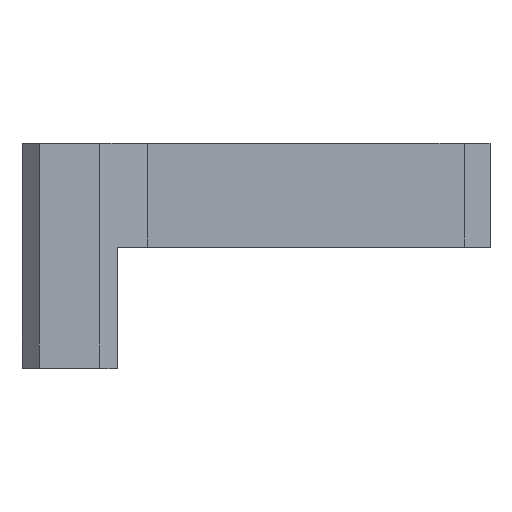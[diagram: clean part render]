
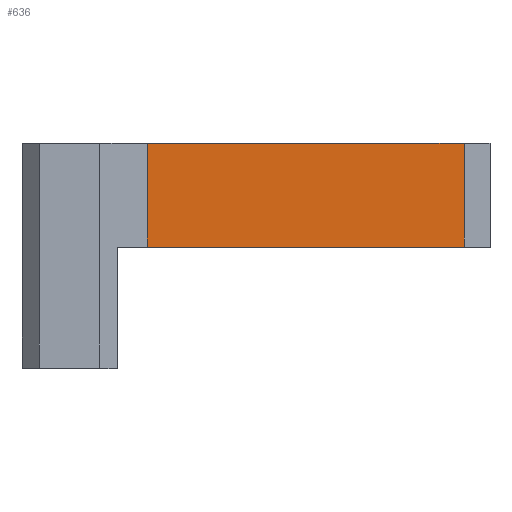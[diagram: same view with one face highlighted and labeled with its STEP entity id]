
A CAD part, top view. The second image highlights one B-rep face of the part: STEP entity #636.
In plain terms, the highlighted planar face has unit normal (0, 0, 1).
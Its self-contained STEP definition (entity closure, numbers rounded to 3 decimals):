
#111 = VECTOR ( 'NONE', #1032, 1000. ) ;
#241 = LINE ( 'NONE', #2005, #1550 ) ;
#290 = ORIENTED_EDGE ( 'NONE', *, *, #1762, .F. ) ;
#303 = VERTEX_POINT ( 'NONE', #1878 ) ;
#327 = CARTESIAN_POINT ( 'NONE',  ( 10.08, 0., 9.25 ) ) ;
#444 = AXIS2_PLACEMENT_3D ( 'NONE', #1285, #687, #1675 ) ;
#569 = DIRECTION ( 'NONE',  ( 1., 0., 0. ) ) ;
#579 = CARTESIAN_POINT ( 'NONE',  ( -8.22, 0., 9.25 ) ) ;
#636 = ADVANCED_FACE ( 'NONE', ( #1235 ), #1611, .F. ) ;
#647 = VECTOR ( 'NONE', #1499, 1000. ) ;
#687 = DIRECTION ( 'NONE',  ( 0., 0., -1. ) ) ;
#778 = EDGE_CURVE ( 'NONE', #1775, #899, #1457, .T. ) ;
#845 = ORIENTED_EDGE ( 'NONE', *, *, #1749, .T. ) ;
#899 = VERTEX_POINT ( 'NONE', #327 ) ;
#927 = EDGE_LOOP ( 'NONE', ( #845, #1672, #290, #1109 ) ) ;
#1032 = DIRECTION ( 'NONE',  ( 0., -1., 0. ) ) ;
#1109 = ORIENTED_EDGE ( 'NONE', *, *, #1973, .F. ) ;
#1119 = LINE ( 'NONE', #1789, #111 ) ;
#1235 = FACE_OUTER_BOUND ( 'NONE', #927, .T. ) ;
#1266 = CARTESIAN_POINT ( 'NONE',  ( 10.08, 6., 9.25 ) ) ;
#1285 = CARTESIAN_POINT ( 'NONE',  ( -10.08, 6., 9.25 ) ) ;
#1332 = DIRECTION ( 'NONE',  ( 0., -1., 0. ) ) ;
#1457 = LINE ( 'NONE', #1480, #647 ) ;
#1480 = CARTESIAN_POINT ( 'NONE',  ( -10.08, 0., 9.25 ) ) ;
#1497 = VERTEX_POINT ( 'NONE', #1266 ) ;
#1499 = DIRECTION ( 'NONE',  ( 1., 0., 0. ) ) ;
#1550 = VECTOR ( 'NONE', #569, 1000. ) ;
#1611 = PLANE ( 'NONE',  #444 ) ;
#1672 = ORIENTED_EDGE ( 'NONE', *, *, #778, .T. ) ;
#1675 = DIRECTION ( 'NONE',  ( -1., 0., 0. ) ) ;
#1749 = EDGE_CURVE ( 'NONE', #303, #1775, #1836, .T. ) ;
#1762 = EDGE_CURVE ( 'NONE', #1497, #899, #1119, .T. ) ;
#1775 = VERTEX_POINT ( 'NONE', #579 ) ;
#1789 = CARTESIAN_POINT ( 'NONE',  ( 10.08, 6., 9.25 ) ) ;
#1797 = CARTESIAN_POINT ( 'NONE',  ( -8.22, 16.612, 9.25 ) ) ;
#1836 = LINE ( 'NONE', #1797, #1963 ) ;
#1878 = CARTESIAN_POINT ( 'NONE',  ( -8.22, 6., 9.25 ) ) ;
#1963 = VECTOR ( 'NONE', #1332, 1000. ) ;
#1973 = EDGE_CURVE ( 'NONE', #303, #1497, #241, .T. ) ;
#2005 = CARTESIAN_POINT ( 'NONE',  ( -10.08, 6., 9.25 ) ) ;
